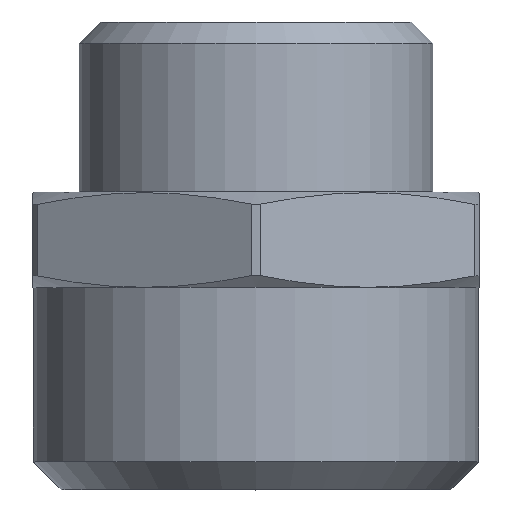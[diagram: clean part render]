
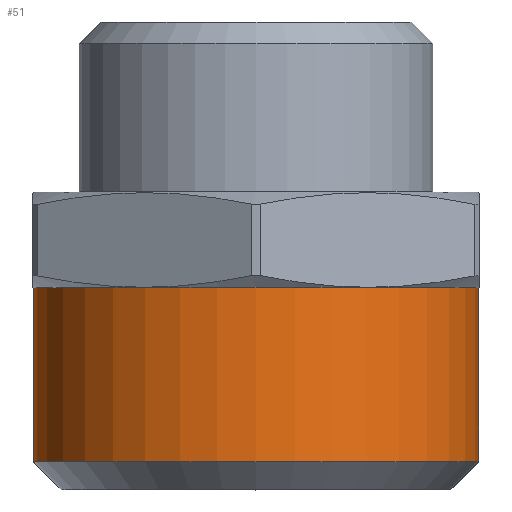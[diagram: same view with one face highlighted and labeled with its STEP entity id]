
A CAD part, top view. The second image highlights one B-rep face of the part: STEP entity #51.
In plain terms, the highlighted cylindrical face has radius 10.477 mm (diameter 20.955 mm), a full revolution.
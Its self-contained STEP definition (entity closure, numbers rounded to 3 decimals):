
#51=ADVANCED_FACE('',(#134,#136),#138,.T.);
#134=FACE_OUTER_BOUND('',#135,.T.);
#135=EDGE_LOOP('',(#304));
#136=FACE_OUTER_BOUND('',#137,.T.);
#137=EDGE_LOOP('',(#305));
#138=CYLINDRICAL_SURFACE('',#139,10.478);
#139=AXIS2_PLACEMENT_3D('',#140,#141,#142);
#140=CARTESIAN_POINT('',(0.,-2.25,0.));
#141=DIRECTION('',(0.,-1.,0.));
#142=DIRECTION('',(1.,0.,0.));
#304=ORIENTED_EDGE('',*,*,#405,.T.);
#305=ORIENTED_EDGE('',*,*,#403,.F.);
#403=EDGE_CURVE('',#464,#464,#465,.T.);
#405=EDGE_CURVE('',#468,#468,#469,.T.);
#464=VERTEX_POINT('',#583);
#465=CIRCLE('',#584,10.478);
#468=VERTEX_POINT('',#593);
#469=CIRCLE('',#594,10.478);
#583=CARTESIAN_POINT('',(10.478,-10.45,0.));
#584=AXIS2_PLACEMENT_3D('',#585,#586,#587);
#585=CARTESIAN_POINT('',(0.,-10.45,0.));
#586=DIRECTION('',(0.,-1.,0.));
#587=DIRECTION('',(1.,0.,0.));
#593=CARTESIAN_POINT('',(10.478,-2.25,0.));
#594=AXIS2_PLACEMENT_3D('',#595,#596,#597);
#595=CARTESIAN_POINT('',(0.,-2.25,0.));
#596=DIRECTION('',(0.,-1.,0.));
#597=DIRECTION('',(1.,0.,0.));
